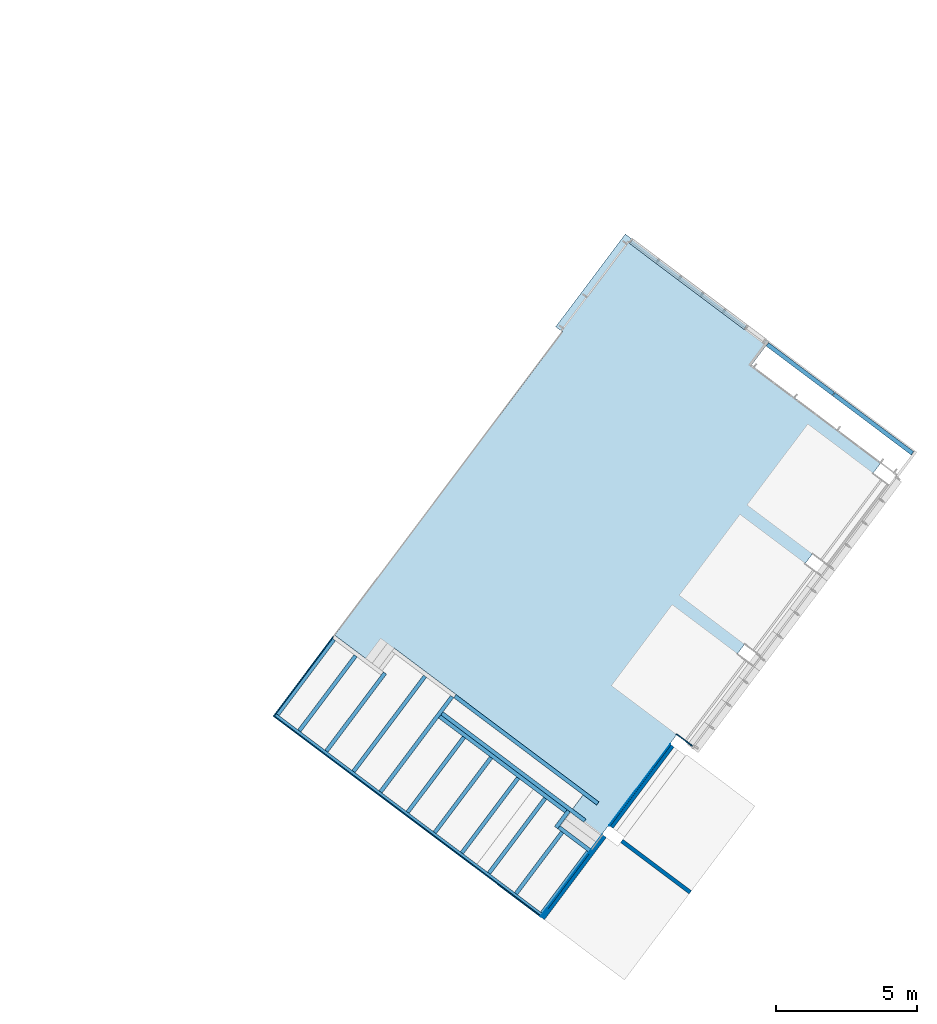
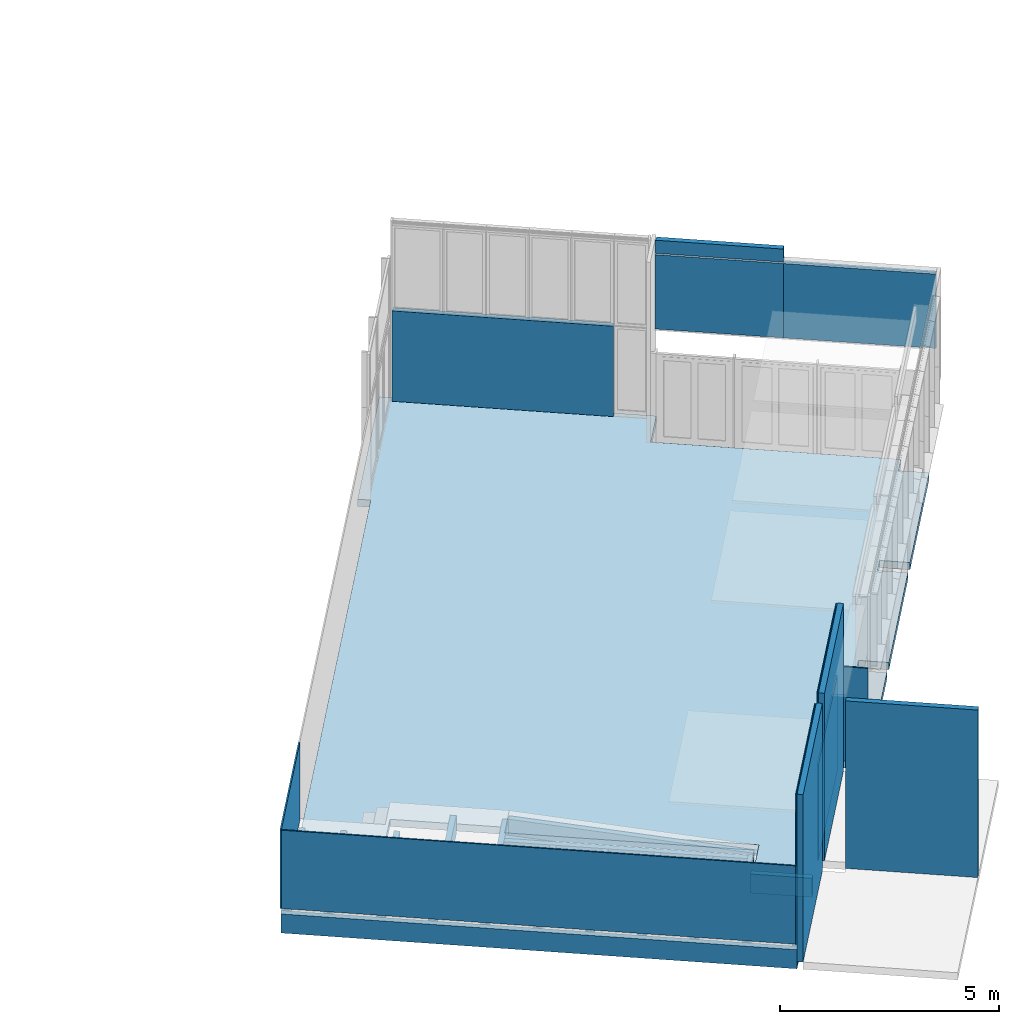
# One storey, part 6 of 15: 27 walls, 4 plates, 1 slab, 3 elements without a shape of their own.
"""IFC2X3 building model written with IfcOpenShell, lengths in metres."""

from ifc_helpers import new_model, entity, si_unit, converted_unit, derived_unit, direction, frame, frame_2d, origin, origin_2d_with_axis, place, context, subcontext, project, spatial, polyline, rectangle, outline, extrude, clip, halfspace, source, transform, mapped, material, material_list, layer, layer_set, layer_usage, type_object, type_shapes, element, aggregate, save


model = new_model("IFC2X3")

# Units and contexts
model_context = context("Model", 3, precision=1e-05, world=origin(), true_north=direction((6.123031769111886e-17, 1.0)))
body_context = subcontext(model_context, "Body", "Model", "MODEL_VIEW")
ifc_project = project(units=[si_unit("LENGTHUNIT", "METRE"), si_unit("AREAUNIT", "SQUARE_METRE"), si_unit("VOLUMEUNIT", "CUBIC_METRE"), converted_unit("PLANEANGLEUNIT", "DEGREE", entity("IfcRatioMeasure", 0.017453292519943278), si_unit("PLANEANGLEUNIT", "RADIAN"), dimensions=[0, 0, 0, 0, 0, 0, 0]), si_unit("MASSUNIT", "GRAM", prefix="KILO"), derived_unit("MASSDENSITYUNIT", [(si_unit("MASSUNIT", "GRAM", prefix="KILO"), 1), (si_unit("LENGTHUNIT", "METRE"), -3)]), derived_unit("IONCONCENTRATIONUNIT", [(si_unit("MASSUNIT", "GRAM", prefix="KILO"), 1), (si_unit("LENGTHUNIT", "METRE"), -3)]), derived_unit("MOMENTOFINERTIAUNIT", [(si_unit("LENGTHUNIT", "METRE"), 4)]), si_unit("TIMEUNIT", "SECOND"), si_unit("FREQUENCYUNIT", "HERTZ"), si_unit("THERMODYNAMICTEMPERATUREUNIT", "DEGREE_CELSIUS"), derived_unit("THERMALTRANSMITTANCEUNIT", [(si_unit("MASSUNIT", "GRAM", prefix="KILO"), 1), (si_unit("THERMODYNAMICTEMPERATUREUNIT", "KELVIN"), -1), (si_unit("TIMEUNIT", "SECOND"), -3)]), derived_unit("THERMALCONDUCTANCEUNIT", [(si_unit("MASSUNIT", "GRAM", prefix="KILO"), 1), (si_unit("THERMODYNAMICTEMPERATUREUNIT", "KELVIN"), -1), (si_unit("TIMEUNIT", "SECOND"), -3), (si_unit("LENGTHUNIT", "METRE"), 1)]), derived_unit("VOLUMETRICFLOWRATEUNIT", [(si_unit("LENGTHUNIT", "METRE"), 3), (si_unit("TIMEUNIT", "SECOND"), -1)]), derived_unit("MASSFLOWRATEUNIT", [(si_unit("MASSUNIT", "GRAM", prefix="KILO"), 1), (si_unit("TIMEUNIT", "SECOND"), -1)]), derived_unit("ROTATIONALFREQUENCYUNIT", [(si_unit("TIMEUNIT", "SECOND"), -1)]), si_unit("ELECTRICCURRENTUNIT", "AMPERE"), si_unit("ELECTRICVOLTAGEUNIT", "VOLT"), si_unit("POWERUNIT", "WATT"), si_unit("FORCEUNIT", "NEWTON", prefix="KILO"), si_unit("ILLUMINANCEUNIT", "LUX"), si_unit("LUMINOUSFLUXUNIT", "LUMEN"), si_unit("LUMINOUSINTENSITYUNIT", "CANDELA"), derived_unit("USERDEFINED", [(si_unit("MASSUNIT", "GRAM", prefix="KILO"), -1), (si_unit("LENGTHUNIT", "METRE"), -2), (si_unit("TIMEUNIT", "SECOND"), 3), (si_unit("LUMINOUSFLUXUNIT", "LUMEN"), 1)]), derived_unit("USERDEFINED", [(si_unit("MASSUNIT", "GRAM", prefix="KILO"), 1), (si_unit("TIMEUNIT", "SECOND"), -3), (si_unit("LENGTHUNIT", "METRE"), 3), (si_unit("ELECTRICCURRENTUNIT", "AMPERE"), -2)]), derived_unit("SOUNDPOWERUNIT", [(si_unit("MASSUNIT", "GRAM", prefix="KILO"), 1), (si_unit("TIMEUNIT", "SECOND"), -3), (si_unit("LENGTHUNIT", "METRE"), 2)]), derived_unit("SOUNDPRESSUREUNIT", [(si_unit("MASSUNIT", "GRAM", prefix="KILO"), 1), (si_unit("LENGTHUNIT", "METRE"), -1), (si_unit("TIMEUNIT", "SECOND"), -2)]), derived_unit("LINEARVELOCITYUNIT", [(si_unit("LENGTHUNIT", "METRE"), 1), (si_unit("TIMEUNIT", "SECOND"), -1)]), si_unit("PRESSUREUNIT", "PASCAL"), derived_unit("USERDEFINED", [(si_unit("MASSUNIT", "GRAM", prefix="KILO"), 1), (si_unit("LENGTHUNIT", "METRE"), -2), (si_unit("TIMEUNIT", "SECOND"), -2)]), derived_unit("LINEARFORCEUNIT", [(si_unit("MASSUNIT", "GRAM", prefix="KILO"), 1), (si_unit("TIMEUNIT", "SECOND"), -2)]), derived_unit("PLANARFORCEUNIT", [(si_unit("MASSUNIT", "GRAM", prefix="KILO"), 1), (si_unit("LENGTHUNIT", "METRE"), -1), (si_unit("TIMEUNIT", "SECOND"), -2)]), derived_unit("SPECIFICHEATCAPACITYUNIT", [(si_unit("THERMODYNAMICTEMPERATUREUNIT", "KELVIN"), -1), (si_unit("LENGTHUNIT", "METRE"), 2), (si_unit("TIMEUNIT", "SECOND"), -2)]), derived_unit("HEATINGVALUEUNIT", [(si_unit("LENGTHUNIT", "METRE"), 2), (si_unit("TIMEUNIT", "SECOND"), -2)]), derived_unit("VAPORPERMEABILITYUNIT", [(si_unit("LENGTHUNIT", "METRE"), -1), (si_unit("TIMEUNIT", "SECOND"), 1)]), derived_unit("DYNAMICVISCOSITYUNIT", [(si_unit("MASSUNIT", "GRAM", prefix="KILO"), 1), (si_unit("TIMEUNIT", "SECOND"), -1), (si_unit("LENGTHUNIT", "METRE"), -1)]), derived_unit("THERMALEXPANSIONCOEFFICIENTUNIT", [(si_unit("THERMODYNAMICTEMPERATUREUNIT", "KELVIN"), -1)]), derived_unit("MODULUSOFELASTICITYUNIT", [(si_unit("MASSUNIT", "GRAM", prefix="KILO"), 1), (si_unit("LENGTHUNIT", "METRE"), -1), (si_unit("TIMEUNIT", "SECOND"), -2)]), derived_unit("ISOTHERMALMOISTURECAPACITYUNIT", [(si_unit("LENGTHUNIT", "METRE"), 3), (si_unit("MASSUNIT", "GRAM", prefix="KILO"), -1)]), derived_unit("MOISTUREDIFFUSIVITYUNIT", [(si_unit("TIMEUNIT", "SECOND"), -1), (si_unit("LENGTHUNIT", "METRE"), 2)])], contexts=[model_context])

# Site, building, storey
site_placement = place(None, frame((0.0, 0.0, 235.0), z_axis=(0.0, 0.0, 1.0), x_axis=(-0.7996477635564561, 0.6004693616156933, 0.0)))
site = spatial("IfcSite", under=ifc_project, at=site_placement, Name="Default", CompositionType="ELEMENT")
building_placement = place(site_placement, origin())
building = spatial("IfcBuilding", under=site, at=building_placement, CompositionType="ELEMENT")
storey_placement = place(building_placement, frame((0.0, 0.0, -5.4499999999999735)))
storey = spatial("IfcBuildingStorey", under=building, at=storey_placement, Name="PS1- Gimnàs", CompositionType="ELEMENT", Elevation=-5.4499999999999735)

# Slab
ifc_material_1 = material(Name="_Formigó antilliscant- T2- PAV")
ifc_layer_1 = layer(ifc_material_1, 0.14)
ifc_material_2 = material(Name="_Aillament")
ifc_layer_2 = layer(ifc_material_2, 0.06)
ifc_layer_set_1 = layer_set([ifc_layer_1, ifc_layer_2], Name="Suelo:PAV- Formigó Antilliscant + aillament- T1- 20 cm")
ifc_layer_usage_1 = layer_usage(ifc_layer_set_1, "AXIS3", "POSITIVE", 0.0)
slab_type = type_object("IfcSlabType", Name="Suelo:PAV- Formigó Antilliscant + aillament- T1- 20 cm", PredefinedType="FLOOR", material=ifc_layer_set_1)
slab_placement = place(storey_placement, origin())
element("IfcSlab", 1, at=slab_placement, inside=storey, type_object=slab_type, material=ifc_layer_usage_1, Name="Suelo:PAV- Formigó Antilliscant + aillament- T1- 20 cm", ObjectType="Suelo:PAV- Formigó Antilliscant + aillament- T1- 20 cm", PredefinedType="FLOOR", context=body_context, shape_type="SweptSolid", body=[
    extrude(outline(polyline([(-6.893783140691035, -3.9291666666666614), (-3.2937831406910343, -3.9291666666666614), (-3.2937831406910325, -3.229166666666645), (-2.893783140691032, -3.2291666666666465), (-2.8937831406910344, -3.929166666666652), (0.7062168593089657, -3.9291666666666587), (0.7062168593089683, -3.229166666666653), (1.1062168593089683, -3.2291666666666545), (1.1062168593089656, -3.9291666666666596), (4.706216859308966, -3.9291666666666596), (4.706216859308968, -3.2291666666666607), (9.156216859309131, -3.2291666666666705), (9.156216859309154, -1.8591666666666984), (8.256216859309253, -1.8591666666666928), (8.256216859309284, 6.6108333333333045), (9.156216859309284, 6.610833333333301), (9.156216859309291, 8.57083333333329), (-4.278790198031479, 8.57083333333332), (-4.278790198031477, 8.870833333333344), (-8.383580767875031, 8.870833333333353), (-8.383580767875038, 2.510833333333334), (-7.343580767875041, 2.5108333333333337), (-7.343580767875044, -3.229166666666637), (-6.893783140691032, -3.2291666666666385), (-6.893783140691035, -3.9291666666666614)])), frame((7.074314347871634, -31.09640861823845, 0.0), z_axis=(0.0, 0.0, -1.0), x_axis=(0.0, 1.0, 0.0)), (0.0, 0.0, 1.0), 0.2),
])

# Curtain wall, plates
curtain_wall_type_1 = type_object("IfcCurtainWallType", Name="Muro cortina:MC- EXT- MCv1- Portes", PredefinedType="NOTDEFINED")
curtain_wall_1_placement = place(storey_placement, frame((0.0, 0.0, 5.4499999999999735)))
curtain_wall_1 = element("IfcCurtainWall", 2, at=curtain_wall_1_placement, inside=storey, type_object=curtain_wall_type_1, Name="Muro cortina:MC- EXT- MCv1- Portes", ObjectType="Muro cortina:MC- EXT- MCv1- Portes")
ifc_material_3 = material(Name="_Fusta massisa- T1")
ifc_material_4 = material(Name="_HPL- T1- REV")
ifc_material_list = material_list([ifc_material_3, ifc_material_2, ifc_material_4])
plate_type_1 = type_object("IfcPlateType", Name="MC- Alu- Panell opac revestiment interior:MC- Alu panell revestiment xapa", PredefinedType="CURTAIN_PANEL", material=ifc_material_list)
shared_shape_1 = source(origin(), body_context, "Body", "SweptSolid", [
    extrude(rectangle(XDim=2.946000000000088, YDim=0.023000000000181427, at=frame_2d((0.0, 3.469446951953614e-18), x_axis=(1.0, 0.0))), frame((0.0, 0.04849999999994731, -0.01199999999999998), z_axis=(0.0, 0.0, 1.0), x_axis=(-1.0, 0.0, 0.0)), (0.0, 0.0, 1.0), 2.0669999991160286),
    extrude(rectangle(XDim=0.10399999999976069, YDim=2.922500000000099, at=origin_2d_with_axis()), frame((0.0002499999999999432, -0.014999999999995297, 0.0), z_axis=(0.0, 0.0, 1.0), x_axis=(0.0, 1.0, 0.0)), (0.0, 0.0, 1.0), 2.0429999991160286),
    extrude(rectangle(XDim=0.023000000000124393, YDim=2.9225000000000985, at=frame_2d((-8.673617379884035e-18, 0.0), x_axis=(1.0, 0.0))), frame((0.00024999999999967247, -0.07849999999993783, 0.0), z_axis=(0.0, 0.0, 1.0), x_axis=(0.0, 1.0, 0.0)), (0.0, 0.0, 1.0), 2.0429999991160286),
])
type_shapes(plate_type_1, [shared_shape_1])
plate_1_placement = place(curtain_wall_1_placement, frame((8.118147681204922, -39.3641917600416, -2.8974999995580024)))
plate_1 = element("IfcPlate", 3, at=plate_1_placement, type_object=plate_type_1, material=ifc_material_list, Name="MC- Alu- Panell opac revestiment interior:MC- Alu panell revestiment xapa", ObjectType="MC- Alu- Panell opac revestiment interior:MC- Alu panell revestiment xapa", context=body_context, shape_type="MappedRepresentation", body=[
    mapped(shared_shape_1, transform((0.0, 0.0, 0.0), scale=1.0)),
])
plate_type_2 = type_object("IfcPlateType", Name="MC- Alu- Panell opac revestiment interior:MC- Alu panell revestiment xapa", PredefinedType="CURTAIN_PANEL", material=ifc_material_list)
shared_shape_2 = source(origin(), body_context, "Body", "SweptSolid", [
    extrude(rectangle(XDim=2.946000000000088, YDim=0.023000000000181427, at=frame_2d((0.0, 3.469446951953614e-18), x_axis=(1.0, 0.0))), frame((0.0, 0.04849999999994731, -0.01199999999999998), z_axis=(0.0, 0.0, 1.0), x_axis=(-1.0, 0.0, 0.0)), (0.0, 0.0, 1.0), 0.36200000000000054),
    extrude(rectangle(XDim=0.10399999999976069, YDim=2.922500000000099, at=origin_2d_with_axis()), frame((0.0002499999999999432, -0.014999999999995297, 0.0), z_axis=(0.0, 0.0, 1.0), x_axis=(0.0, 1.0, 0.0)), (0.0, 0.0, 1.0), 0.3380000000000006),
    extrude(rectangle(XDim=0.023000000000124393, YDim=2.9225000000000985, at=frame_2d((-8.673617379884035e-18, 0.0), x_axis=(1.0, 0.0))), frame((0.00024999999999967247, -0.07849999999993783, 0.0), z_axis=(0.0, 0.0, 1.0), x_axis=(0.0, 1.0, 0.0)), (0.0, 0.0, 1.0), 0.3380000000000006),
])
type_shapes(plate_type_2, [shared_shape_2])
plate_2_placement = place(curtain_wall_1_placement, frame((8.118147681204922, -39.3641917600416, -0.7900000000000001)))
plate_2 = element("IfcPlate", 4, at=plate_2_placement, type_object=plate_type_2, material=ifc_material_list, Name="MC- Alu- Panell opac revestiment interior:MC- Alu panell revestiment xapa", ObjectType="MC- Alu- Panell opac revestiment interior:MC- Alu panell revestiment xapa", context=body_context, shape_type="MappedRepresentation", body=[
    mapped(shared_shape_2, transform((0.0, 0.0, 0.0), scale=1.0)),
])
aggregate(curtain_wall_1, [plate_1, plate_2])

# Curtain wall, plate
curtain_wall_type_2 = type_object("IfcCurtainWallType", Name="Muro cortina:MC- EXT- MCv1- frontal", PredefinedType="NOTDEFINED")
curtain_wall_2_placement = place(storey_placement, frame((0.0, 0.0, 5.4499999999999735)))
curtain_wall_2 = element("IfcCurtainWall", 5, at=curtain_wall_2_placement, inside=storey, type_object=curtain_wall_type_2, Name="Muro cortina:MC- EXT- MCv1- frontal", ObjectType="Muro cortina:MC- EXT- MCv1- frontal")
plate_type_3 = type_object("IfcPlateType", Name="MC- Alu- Panell opac revestiment interior:MC- Alu panell revestiment xapa", PredefinedType="CURTAIN_PANEL", material=ifc_material_list)
shared_shape_3 = source(origin(), body_context, "Body", "SweptSolid", [
    extrude(rectangle(XDim=0.02300000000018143, YDim=5.084749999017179, at=frame_2d((-4.336808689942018e-18, 4.440892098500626e-16), x_axis=(1.0, 0.0))), frame((0.0, -0.0484999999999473, -0.01199999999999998), z_axis=(0.0, 0.0, 1.0), x_axis=(0.0, 1.0, 0.0)), (0.0, 0.0, 1.0), 2.5146999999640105),
    extrude(rectangle(XDim=5.061249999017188, YDim=0.10399999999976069, at=origin_2d_with_axis()), frame((0.0002499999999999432, 0.014999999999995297, 0.0), z_axis=(0.0, 0.0, 1.0), x_axis=(-1.0, 0.0, 0.0)), (0.0, 0.0, 1.0), 2.4906999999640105),
    extrude(rectangle(XDim=5.061249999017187, YDim=0.023000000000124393, at=frame_2d((-2.220446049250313e-16, -8.673617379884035e-18), x_axis=(1.0, 0.0))), frame((0.00024999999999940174, 0.07849999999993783, 0.0), z_axis=(0.0, 0.0, 1.0), x_axis=(-1.0, 0.0, 0.0)), (0.0, 0.0, 1.0), 2.4906999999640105),
])
type_shapes(plate_type_3, [shared_shape_3])
plate_3_placement = place(curtain_wall_2_placement, frame((13.092522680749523, -39.3651917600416, -5.417699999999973), z_axis=(0.0, 0.0, 1.0), x_axis=(-1.0, 0.0, 0.0)))
plate_3 = element("IfcPlate", 6, at=plate_3_placement, type_object=plate_type_3, material=ifc_material_list, Name="MC- Alu- Panell opac revestiment interior:MC- Alu panell revestiment xapa", ObjectType="MC- Alu- Panell opac revestiment interior:MC- Alu panell revestiment xapa", context=body_context, shape_type="MappedRepresentation", body=[
    mapped(shared_shape_3, transform((0.0, 0.0, 0.0), scale=1.0)),
])
aggregate(curtain_wall_2, [plate_3])

curtain_wall_3_placement = place(storey_placement, frame((0.0, 0.0, 5.4499999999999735)))
curtain_wall_3 = element("IfcCurtainWall", 7, at=curtain_wall_3_placement, inside=storey, type_object=curtain_wall_type_1, Name="Muro cortina:MC- EXT- MCv1- Portes", ObjectType="Muro cortina:MC- EXT- MCv1- Portes")
plate_type_4 = type_object("IfcPlateType", Name="MC- Alu- Panell opac revestiment interior:MC- Alu panell revestiment xapa", PredefinedType="CURTAIN_PANEL", material=ifc_material_list)
shared_shape_4 = source(origin(), body_context, "Body", "SweptSolid", [
    extrude(rectangle(XDim=3.5039999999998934, YDim=0.023000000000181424, at=frame_2d((0.0, -3.469446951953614e-18), x_axis=(1.0, 0.0))), frame((0.0, 0.0484999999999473, -0.01199999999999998), z_axis=(0.0, 0.0, 1.0), x_axis=(-1.0, 0.0, 0.0)), (0.0, 0.0, 1.0), 2.0669999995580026),
    extrude(rectangle(XDim=0.10399999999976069, YDim=3.480499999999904, at=origin_2d_with_axis()), frame((0.0002499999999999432, -0.014999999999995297, 0.0), z_axis=(0.0, 0.0, 1.0), x_axis=(0.0, 1.0, 0.0)), (0.0, 0.0, 1.0), 2.0429999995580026),
    extrude(rectangle(XDim=0.023000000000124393, YDim=3.4804999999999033, at=frame_2d((-8.673617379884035e-18, 0.0), x_axis=(1.0, 0.0))), frame((0.00024999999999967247, -0.07849999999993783, 0.0), z_axis=(0.0, 0.0, 1.0), x_axis=(0.0, 1.0, 0.0)), (0.0, 0.0, 1.0), 2.0429999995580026),
])
type_shapes(plate_type_4, [shared_shape_4])
plate_4_placement = place(curtain_wall_3_placement, frame((4.893147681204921, -39.36419176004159, -2.897499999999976)))
plate_4 = element("IfcPlate", 8, at=plate_4_placement, type_object=plate_type_4, material=ifc_material_list, Name="MC- Alu- Panell opac revestiment interior:MC- Alu panell revestiment xapa", ObjectType="MC- Alu- Panell opac revestiment interior:MC- Alu panell revestiment xapa", context=body_context, shape_type="MappedRepresentation", body=[
    mapped(shared_shape_4, transform((0.0, 0.0, 0.0), scale=1.0)),
])
aggregate(curtain_wall_3, [plate_4])

# Walls
ifc_material_5 = material(Name="_Ceràmica- ENV")
ifc_layer_3 = layer(ifc_material_5, 0.14)
ifc_layer_set_2 = layer_set([ifc_layer_3], Name="Muro básico:ENV- Ceràmic- 14 cm")
ifc_layer_usage_2 = layer_usage(ifc_layer_set_2, "AXIS2", "NEGATIVE", 0.07)
wall_type_1 = type_object("IfcWallType", Name="Muro básico:ENV- Ceràmic- 14 cm", PredefinedType="STANDARD", material=ifc_layer_set_2)
wall_1_placement = place(storey_placement, frame((3.1451476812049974, -22.22019175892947, 0.0), z_axis=(0.0, 0.0, 1.0), x_axis=(-1.0, 0.0, 0.0)))
element("IfcWallStandardCase", 9, at=wall_1_placement, inside=storey, type_object=wall_type_1, material=ifc_layer_usage_2, Name="Muro básico:ENV- Ceràmic- 14 cm", ObjectType="Muro básico:ENV- Ceràmic- 14 cm", context=body_context, shape_type="SweptSolid", body=[
    extrude(rectangle(XDim=3.0393142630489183, YDim=0.14000000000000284, at=frame_2d((1.5196571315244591, 9.159339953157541e-16), x_axis=(-1.0, 0.0))), origin(), (0.0, 0.0, 1.0), 4.659999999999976),
])
wall_2_placement = place(storey_placement, frame((3.7251476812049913, -22.390191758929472, 0.0), z_axis=(0.0, 0.0, 1.0), x_axis=(0.0, -1.0, 0.0)))
element("IfcWallStandardCase", 10, at=wall_2_placement, inside=storey, type_object=wall_type_1, material=ifc_layer_usage_2, Name="Muro básico:ENV- Ceràmic- 14 cm", ObjectType="Muro básico:ENV- Ceràmic- 14 cm", context=body_context, shape_type="SweptSolid", body=[
    extrude(rectangle(XDim=3.599999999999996, YDim=0.13999999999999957, at=frame_2d((1.799999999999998, 0.0), x_axis=(-1.0, 0.0))), origin(), (0.0, 0.0, 1.0), 4.659999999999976),
])
ifc_layer_usage_3 = layer_usage(ifc_layer_set_2, "AXIS2", "POSITIVE", -0.07)
wall_3_placement = place(storey_placement, frame((3.7251476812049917, -21.990191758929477, 0.0), z_axis=(0.0, 0.0, 1.0), x_axis=(0.0, 1.0, 0.0)))
element("IfcWallStandardCase", 11, at=wall_3_placement, inside=storey, type_object=wall_type_1, material=ifc_layer_usage_3, Name="Muro básico:ENV- Ceràmic- 14 cm", ObjectType="Muro básico:ENV- Ceràmic- 14 cm", context=body_context, shape_type="SweptSolid", body=[
    extrude(rectangle(XDim=3.6500000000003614, YDim=0.13999999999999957, at=frame_2d((1.8250000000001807, 0.0), x_axis=(-1.0, 0.0))), origin(), (0.0, 0.0, 1.0), 4.659999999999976),
])
wall_4_placement = place(storey_placement, frame((11.015147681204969, -18.48019175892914, -0.20000000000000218), z_axis=(0.0, 0.0, 1.0), x_axis=(0.0, -1.0, 0.0)))
element("IfcWallStandardCase", 12, at=wall_4_placement, inside=storey, type_object=wall_type_1, material=ifc_layer_usage_2, Name="Muro básico:ENV- Ceràmic- 14 cm", ObjectType="Muro básico:ENV- Ceràmic- 14 cm", context=body_context, shape_type="SweptSolid", body=[
    extrude(rectangle(XDim=4.220000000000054, YDim=0.1399999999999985, at=frame_2d((2.110000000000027, -1.1102230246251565e-16), x_axis=(-1.0, 0.0))), origin(), (0.0, 0.0, 1.0), 0.5300000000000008),
])
wall_5_placement = place(storey_placement, frame((4.6182726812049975, -22.770191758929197, -0.20000000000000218)))
element("IfcWallStandardCase", 13, at=wall_5_placement, inside=storey, type_object=wall_type_1, material=ifc_layer_usage_2, Name="Muro básico:ENV- Ceràmic- 14 cm", ObjectType="Muro básico:ENV- Ceràmic- 14 cm", context=body_context, shape_type="Clipping", body=[
    clip(extrude(rectangle(XDim=6.326874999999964, YDim=0.14000000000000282, at=frame_2d((3.163437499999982, 0.0), x_axis=(-1.0, 0.0))), origin(), (0.0, 0.0, 1.0), 0.5300000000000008), halfspace(frame((0.0, 0.07000000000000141, 0.0), z_axis=(-0.08347725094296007, 0.0, 0.9965096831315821), x_axis=(0.0, 1.0, 0.0)), False)),
])
wall_6_placement = place(storey_placement, frame((5.285147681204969, -21.200191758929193, -0.20000000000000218), z_axis=(0.0, 0.0, 1.0), x_axis=(0.0, -1.0, 0.0)))
element("IfcWallStandardCase", 14, at=wall_6_placement, inside=storey, type_object=wall_type_1, material=ifc_layer_usage_2, Name="Muro básico:ENV- Ceràmic- 14 cm", ObjectType="Muro básico:ENV- Ceràmic- 14 cm", context=body_context, shape_type="SweptSolid", body=[
    extrude(rectangle(XDim=0.739999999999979, YDim=0.14000000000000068, at=frame_2d((0.3699999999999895, 2.636779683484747e-16), x_axis=(-1.0, 0.0))), origin(), (0.0, 0.0, 1.0), 0.5300000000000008),
])
wall_7_placement = place(storey_placement, frame((5.3551476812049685, -21.870191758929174, -0.20000000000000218)))
element("IfcWallStandardCase", 15, at=wall_7_placement, inside=storey, type_object=wall_type_1, material=ifc_layer_usage_2, Name="Muro básico:ENV- Ceràmic- 14 cm", ObjectType="Muro básico:ENV- Ceràmic- 14 cm", context=body_context, shape_type="SweptSolid", body=[
    extrude(rectangle(XDim=5.589999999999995, YDim=0.14000000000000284, at=frame_2d((2.7949999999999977, -2.0816681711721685e-16), x_axis=(-1.0, 0.0))), origin(), (0.0, 0.0, 1.0), 0.5300000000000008),
])
wall_8_placement = place(storey_placement, frame((3.795147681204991, -21.27019175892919, -0.20000000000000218)))
element("IfcWallStandardCase", 16, at=wall_8_placement, inside=storey, type_object=wall_type_1, material=ifc_layer_usage_2, Name="Muro básico:ENV- Ceràmic- 14 cm", ObjectType="Muro básico:ENV- Ceràmic- 14 cm", context=body_context, shape_type="SweptSolid", body=[
    extrude(rectangle(XDim=1.4199999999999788, YDim=0.14000000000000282, at=frame_2d((0.7099999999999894, 0.0), x_axis=(-1.0, 0.0))), origin(), (0.0, 0.0, 1.0), 0.5300000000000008),
])
for number, where, z_axis, x_axis, name in (
    (17, (9.81514768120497, -18.480191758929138, -0.20000000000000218), (0.0, 0.0, 1.0), (0.0, -1.0, 0.0), "Muro básico:ENV- Ceràmic- 14 cm"),
    (18, (8.615147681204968, -18.48019175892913, -0.20000000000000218), (0.0, 0.0, 1.0), (0.0, -1.0, 0.0), "Muro básico:ENV- Ceràmic- 14 cm"),
):
    element("IfcWallStandardCase", number, at=place(storey_placement, frame(where, z_axis=z_axis, x_axis=x_axis)), inside=storey, type_object=wall_type_1, material=ifc_layer_usage_2, Name=name, ObjectType="Muro básico:ENV- Ceràmic- 14 cm", context=body_context, shape_type="SweptSolid", body=[
        extrude(rectangle(XDim=3.320000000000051, YDim=0.14000000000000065, at=frame_2d((1.6600000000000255, -2.3592239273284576e-16), x_axis=(-1.0, 0.0))), origin(), (0.0, 0.0, 1.0), 0.5300000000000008),
    ])
for number, where, z_axis, x_axis, name in (
    (19, (7.415147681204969, -18.480191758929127, -0.20000000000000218), (0.0, 0.0, 1.0), (0.0, -1.0, 0.0), "Muro básico:ENV- Ceràmic- 14 cm"),
    (20, (6.215147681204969, -18.480191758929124, -0.20000000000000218), (0.0, 0.0, 1.0), (0.0, -1.0, 0.0), "Muro básico:ENV- Ceràmic- 14 cm"),
):
    element("IfcWallStandardCase", number, at=place(storey_placement, frame(where, z_axis=z_axis, x_axis=x_axis)), inside=storey, type_object=wall_type_1, material=ifc_layer_usage_2, Name=name, ObjectType="Muro básico:ENV- Ceràmic- 14 cm", context=body_context, shape_type="SweptSolid", body=[
        extrude(rectangle(XDim=3.3200000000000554, YDim=0.14000000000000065, at=frame_2d((1.6600000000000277, -2.3592239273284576e-16), x_axis=(-1.0, 0.0))), origin(), (0.0, 0.0, 1.0), 0.5300000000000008),
    ])
wall_9_placement = place(storey_placement, frame((12.21514768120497, -18.480191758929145, -0.20000000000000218), z_axis=(0.0, 0.0, 1.0), x_axis=(0.0, -1.0, 0.0)))
element("IfcWallStandardCase", 21, at=wall_9_placement, inside=storey, type_object=wall_type_1, material=ifc_layer_usage_2, Name="Muro básico:ENV- Ceràmic- 14 cm", ObjectType="Muro básico:ENV- Ceràmic- 14 cm", context=body_context, shape_type="SweptSolid", body=[
    extrude(rectangle(XDim=4.2200000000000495, YDim=0.1399999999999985, at=frame_2d((2.1100000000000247, -1.1102230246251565e-16), x_axis=(-1.0, 0.0))), origin(), (0.0, 0.0, 1.0), 0.5300000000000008),
])
wall_10_placement = place(storey_placement, frame((13.415147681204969, -18.48019175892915, -0.20000000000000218), z_axis=(0.0, 0.0, 1.0), x_axis=(0.0, -1.0, 0.0)))
element("IfcWallStandardCase", 22, at=wall_10_placement, inside=storey, type_object=wall_type_1, material=ifc_layer_usage_2, Name="Muro básico:ENV- Ceràmic- 14 cm", ObjectType="Muro básico:ENV- Ceràmic- 14 cm", context=body_context, shape_type="SweptSolid", body=[
    extrude(rectangle(XDim=3.460000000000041, YDim=0.1399999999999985, at=frame_2d((1.7300000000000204, 4.0939474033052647e-16), x_axis=(-1.0, 0.0))), origin(), (0.0, 0.0, 1.0), 0.5300000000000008),
])
wall_11_placement = place(storey_placement, frame((5.015147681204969, -18.48019175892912, -0.20000000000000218), z_axis=(0.0, 0.0, 1.0), x_axis=(0.0, -1.0, 0.0)))
element("IfcWallStandardCase", 23, at=wall_11_placement, inside=storey, type_object=wall_type_1, material=ifc_layer_usage_2, Name="Muro básico:ENV- Ceràmic- 14 cm", ObjectType="Muro básico:ENV- Ceràmic- 14 cm", context=body_context, shape_type="SweptSolid", body=[
    extrude(rectangle(XDim=2.7200000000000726, YDim=0.14000000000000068, at=frame_2d((1.3600000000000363, -1.3877787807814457e-16), x_axis=(-1.0, 0.0))), origin(), (0.0, 0.0, 1.0), 0.5300000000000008),
])
wall_12_placement = place(storey_placement, frame((3.8651476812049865, -18.480191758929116, -0.20000000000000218), z_axis=(0.0, 0.0, 1.0), x_axis=(0.0, -1.0, 0.0)))
element("IfcWallStandardCase", 24, at=wall_12_placement, inside=storey, type_object=wall_type_1, material=ifc_layer_usage_2, Name="Muro básico:ENV- Ceràmic- 14 cm", ObjectType="Muro básico:ENV- Ceràmic- 14 cm", context=body_context, shape_type="SweptSolid", body=[
    extrude(rectangle(XDim=2.7200000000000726, YDim=0.13999999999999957, at=frame_2d((1.3600000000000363, -1.3877787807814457e-16), x_axis=(-1.0, 0.0))), origin(), (0.0, 0.0, 1.0), 0.5300000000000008),
])
wall_13_placement = place(storey_placement, frame((3.7951476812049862, -18.410191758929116, -0.20000000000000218)))
element("IfcWallStandardCase", 25, at=wall_13_placement, inside=storey, type_object=wall_type_1, material=ifc_layer_usage_3, Name="Muro básico:ENV- Ceràmic- 14 cm", ObjectType="Muro básico:ENV- Ceràmic- 14 cm", context=body_context, shape_type="SweptSolid", body=[
    extrude(rectangle(XDim=11.849999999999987, YDim=0.1399999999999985, at=frame_2d((5.924999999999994, 0.0), x_axis=(-1.0, 0.0))), origin(), (0.0, 0.0, 1.0), 0.5300000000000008),
])
wall_14_placement = place(storey_placement, frame((15.575147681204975, -18.480191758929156, -0.20000000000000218), z_axis=(0.0, 0.0, 1.0), x_axis=(0.0, -1.0, 0.0)))
element("IfcWallStandardCase", 26, at=wall_14_placement, inside=storey, type_object=wall_type_1, material=ifc_layer_usage_2, Name="Muro básico:ENV- Ceràmic- 14 cm", ObjectType="Muro básico:ENV- Ceràmic- 14 cm", context=body_context, shape_type="SweptSolid", body=[
    extrude(rectangle(XDim=3.320000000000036, YDim=0.13999999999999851, at=frame_2d((1.660000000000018, -6.245004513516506e-17), x_axis=(-1.0, 0.0))), origin(), (0.0, 0.0, 1.0), 0.5300000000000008),
])
wall_15_placement = place(storey_placement, frame((14.61514768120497, -18.480191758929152, -0.20000000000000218), z_axis=(0.0, 0.0, 1.0), x_axis=(0.0, -1.0, 0.0)))
element("IfcWallStandardCase", 27, at=wall_15_placement, inside=storey, type_object=wall_type_1, material=ifc_layer_usage_2, Name="Muro básico:ENV- Ceràmic- 14 cm", ObjectType="Muro básico:ENV- Ceràmic- 14 cm", context=body_context, shape_type="SweptSolid", body=[
    extrude(rectangle(XDim=3.3200000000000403, YDim=0.1399999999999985, at=frame_2d((1.6600000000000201, 3.0531133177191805e-16), x_axis=(-1.0, 0.0))), origin(), (0.0, 0.0, 1.0), 0.5300000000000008),
])
wall_16_placement = place(storey_placement, frame((4.618272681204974, -22.010191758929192, -0.20000000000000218)))
element("IfcWallStandardCase", 28, at=wall_16_placement, inside=storey, type_object=wall_type_1, material=ifc_layer_usage_2, Name="Muro básico:ENV- Ceràmic- 14 cm", ObjectType="Muro básico:ENV- Ceràmic- 14 cm", context=body_context, shape_type="Clipping", body=[
    clip(extrude(rectangle(XDim=6.326874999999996, YDim=0.14000000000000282, at=frame_2d((3.163437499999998, 0.0), x_axis=(-1.0, 0.0))), origin(), (0.0, 0.0, 1.0), 0.5300000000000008), halfspace(frame((0.0, -0.06999999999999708, 0.0), z_axis=(-0.08347725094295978, 0.0, 0.9965096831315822), x_axis=(0.0, 1.0, 0.0)), False)),
])
ifc_material_6 = material(Name="_Fusta massisa- T1-  REV- PAV")
ifc_layer_4 = layer(ifc_material_6, 0.015)
ifc_material_7 = material(Name="_Genèric perfils, muntants, rastrells")
ifc_layer_5 = layer(ifc_material_7, 0.02)
ifc_layer_set_3 = layer_set([ifc_layer_4, ifc_layer_5], Name="Muro básico:REV- Fusta- T1- 3,5 cm")
ifc_layer_usage_4 = layer_usage(ifc_layer_set_3, "AXIS2", "NEGATIVE", 0.0175)
wall_type_2 = type_object("IfcWallType", Name="Muro básico:REV- Fusta- T1- 3,5 cm", PredefinedType="STANDARD", material=ifc_layer_set_3)
wall_17_placement = place(storey_placement, frame((15.63514768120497, -18.357691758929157, 0.4799999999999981), z_axis=(0.0, 0.0, 1.0), x_axis=(-1.0, 0.0, 0.0)))
element("IfcWallStandardCase", 29, at=wall_17_placement, inside=storey, type_object=wall_type_2, material=ifc_layer_usage_4, Name="Muro básico:REV- Fusta- T1- 3,5 cm", ObjectType="Muro básico:REV- Fusta- T1- 3,5 cm", context=body_context, shape_type="SweptSolid", body=[
    extrude(rectangle(XDim=11.804999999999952, YDim=0.03500000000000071, at=frame_2d((5.902499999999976, 0.0), x_axis=(-1.0, 0.0))), origin(), (0.0, 0.0, 1.0), 2.1800000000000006),
])
ifc_layer_usage_5 = layer_usage(ifc_layer_set_3, "AXIS2", "POSITIVE", -0.0175)
wall_18_placement = place(storey_placement, frame((3.1451476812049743, -26.407691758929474, 0.0)))
element("IfcWallStandardCase", 30, at=wall_18_placement, inside=storey, type_object=wall_type_2, material=ifc_layer_usage_5, Name="Muro básico:REV- Fusta- T1- 3,5 cm", ObjectType="Muro básico:REV- Fusta- T1- 3,5 cm", context=body_context, shape_type="SweptSolid", body=[
    extrude(rectangle(XDim=0.7175000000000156, YDim=0.035000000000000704, at=frame_2d((0.3587500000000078, -5.377642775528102e-17), x_axis=(-1.0, 0.0))), origin(), (0.0, 0.0, 1.0), 2.6159999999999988),
])
wall_19_placement = place(storey_placement, frame((15.65264768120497, -21.87019175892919, 0.4799999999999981), z_axis=(0.0, 0.0, 1.0), x_axis=(0.0, 1.0, 0.0)))
element("IfcWallStandardCase", 31, at=wall_19_placement, inside=storey, type_object=wall_type_2, material=ifc_layer_usage_4, Name="Muro básico:REV- Fusta- T1- 3,5 cm", ObjectType="Muro básico:REV- Fusta- T1- 3,5 cm", context=body_context, shape_type="SweptSolid", body=[
    extrude(rectangle(XDim=3.530000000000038, YDim=0.03500000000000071, at=frame_2d((1.765000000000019, -4.475586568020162e-16), x_axis=(-1.0, 0.0))), origin(), (0.0, 0.0, 1.0), 2.1800000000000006),
])
wall_20_placement = place(storey_placement, frame((3.812647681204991, -22.390191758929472, 0.0), z_axis=(0.0, 0.0, 1.0), x_axis=(0.0, -1.0, 0.0)))
element("IfcWallStandardCase", 32, at=wall_20_placement, inside=storey, type_object=wall_type_2, material=ifc_layer_usage_4, Name="Muro básico:REV- Fusta- T1- 3,5 cm", ObjectType="Muro básico:REV- Fusta- T1- 3,5 cm", context=body_context, shape_type="SweptSolid", body=[
    extrude(rectangle(XDim=3.599999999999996, YDim=0.03499999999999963, at=frame_2d((1.799999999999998, 1.2836953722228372e-16), x_axis=(-1.0, 0.0))), origin(), (0.0, 0.0, 1.0), 2.6599999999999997),
])
wall_21_placement = place(storey_placement, frame((3.8126476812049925, -21.972691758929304, 0.4799999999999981), z_axis=(0.0, 0.0, 1.0), x_axis=(0.0, 1.0, 0.0)))
element("IfcWallStandardCase", 33, at=wall_21_placement, inside=storey, type_object=wall_type_2, material=ifc_layer_usage_5, Name="Muro básico:REV- Fusta- T1- 3,5 cm", ObjectType="Muro básico:REV- Fusta- T1- 3,5 cm", context=body_context, shape_type="SweptSolid", body=[
    extrude(rectangle(XDim=3.6325000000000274, YDim=0.03499999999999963, at=frame_2d((1.8162500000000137, -5.551115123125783e-17), x_axis=(-1.0, 0.0))), origin(), (0.0, 0.0, 1.0), 2.1799999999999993),
])
ifc_material_8 = material(Name="_Arrebossat- REV")
ifc_layer_6 = layer(ifc_material_8, 0.015)
ifc_layer_set_4 = layer_set([ifc_layer_6], Name="Muro básico:REV- Arrebossat- T1- 1,5 cm")
ifc_layer_usage_6 = layer_usage(ifc_layer_set_4, "AXIS2", "NEGATIVE", 0.0075)
wall_type_3 = type_object("IfcWallType", Name="Muro básico:REV- Arrebossat- T1- 1,5 cm", PredefinedType="STANDARD", material=ifc_layer_set_4)
wall_22_placement = place(storey_placement, frame((3.822647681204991, -22.390191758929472, 2.6599999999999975), z_axis=(0.0, 0.0, 1.0), x_axis=(0.0, -1.0, 0.0)))
element("IfcWallStandardCase", 34, at=wall_22_placement, inside=storey, type_object=wall_type_3, material=ifc_layer_usage_6, Name="Muro básico:REV- Arrebossat- T1- 1,5 cm", ObjectType="Muro básico:REV- Arrebossat- T1- 1,5 cm", context=body_context, shape_type="SweptSolid", body=[
    extrude(rectangle(XDim=3.599999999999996, YDim=0.014999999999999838, at=frame_2d((1.799999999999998, 1.2793585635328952e-16), x_axis=(-1.0, 0.0))), origin(), (0.0, 0.0, 1.0), 2.0),
])
ifc_layer_usage_7 = layer_usage(ifc_layer_set_4, "AXIS2", "POSITIVE", -0.0075)
wall_23_placement = place(storey_placement, frame((3.8226476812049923, -21.972691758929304, 2.6599999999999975), z_axis=(0.0, 0.0, 1.0), x_axis=(0.0, 1.0, 0.0)))
element("IfcWallStandardCase", 35, at=wall_23_placement, inside=storey, type_object=wall_type_3, material=ifc_layer_usage_7, Name="Muro básico:REV- Arrebossat- T1- 1,5 cm", ObjectType="Muro básico:REV- Arrebossat- T1- 1,5 cm", context=body_context, shape_type="SweptSolid", body=[
    extrude(rectangle(XDim=3.6150000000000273, YDim=0.014999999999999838, at=frame_2d((1.8075000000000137, 1.5439038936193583e-16), x_axis=(-1.0, 0.0))), origin(), (0.0, 0.0, 1.0), 2.0),
])

save(model, "model.ifc")
